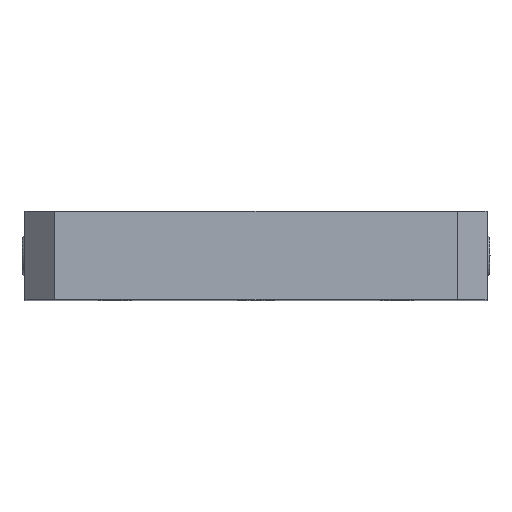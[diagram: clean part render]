
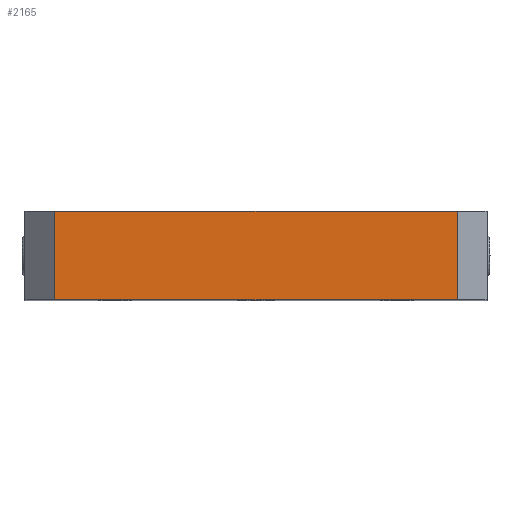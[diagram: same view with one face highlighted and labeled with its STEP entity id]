
A CAD part, top view. The second image highlights one B-rep face of the part: STEP entity #2165.
In plain terms, the highlighted planar face has unit normal (0, 0, 1) as drawn and (-1, 0, 0) by its records, which use the part's own axes.
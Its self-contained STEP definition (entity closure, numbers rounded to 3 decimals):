
#570 = ORIENTED_EDGE ( 'NONE', *, *, #3786, .T. ) ;
#704 = AXIS2_PLACEMENT_3D ( 'NONE', #2195, #2285, #7092 ) ;
#1652 = LINE ( 'NONE', #2837, #7239 ) ;
#1834 = CARTESIAN_POINT ( 'NONE',  ( -95., 0., -68. ) ) ;
#1933 = DIRECTION ( 'NONE',  ( 0., -1., 0. ) ) ;
#1963 = VERTEX_POINT ( 'NONE', #3541 ) ;
#2165 = ADVANCED_FACE ( 'NONE', ( #4345 ), #2842, .F. ) ;
#2195 = CARTESIAN_POINT ( 'NONE',  ( -95., 30., 78. ) ) ;
#2285 = DIRECTION ( 'NONE',  ( 1., 0., 0. ) ) ;
#2613 = CARTESIAN_POINT ( 'NONE',  ( -95., 30., -68. ) ) ;
#2837 = CARTESIAN_POINT ( 'NONE',  ( -95., 30., 68. ) ) ;
#2842 = PLANE ( 'NONE',  #704 ) ;
#2844 = EDGE_CURVE ( 'NONE', #6670, #1963, #1652, .T. ) ;
#2898 = ORIENTED_EDGE ( 'NONE', *, *, #5987, .F. ) ;
#3541 = CARTESIAN_POINT ( 'NONE',  ( -95., 30., 68. ) ) ;
#3560 = DIRECTION ( 'NONE',  ( 0., 1., 0. ) ) ;
#3786 = EDGE_CURVE ( 'NONE', #6898, #6670, #5842, .T. ) ;
#3817 = CARTESIAN_POINT ( 'NONE',  ( -95., 0., 78. ) ) ;
#3820 = VECTOR ( 'NONE', #6611, 1000. ) ;
#4345 = FACE_OUTER_BOUND ( 'NONE', #8142, .T. ) ;
#4455 = ORIENTED_EDGE ( 'NONE', *, *, #2844, .T. ) ;
#4819 = ORIENTED_EDGE ( 'NONE', *, *, #5014, .T. ) ;
#4979 = VECTOR ( 'NONE', #5844, 1000. ) ;
#5014 = EDGE_CURVE ( 'NONE', #6042, #6898, #7415, .T. ) ;
#5253 = VECTOR ( 'NONE', #1933, 1000. ) ;
#5842 = LINE ( 'NONE', #3817, #3820 ) ;
#5844 = DIRECTION ( 'NONE',  ( 0., 0., 1. ) ) ;
#5987 = EDGE_CURVE ( 'NONE', #6042, #1963, #7380, .T. ) ;
#6042 = VERTEX_POINT ( 'NONE', #8600 ) ;
#6611 = DIRECTION ( 'NONE',  ( 0., 0., 1. ) ) ;
#6670 = VERTEX_POINT ( 'NONE', #8345 ) ;
#6898 = VERTEX_POINT ( 'NONE', #1834 ) ;
#7092 = DIRECTION ( 'NONE',  ( 0., 0., -1. ) ) ;
#7239 = VECTOR ( 'NONE', #3560, 1000. ) ;
#7380 = LINE ( 'NONE', #8682, #4979 ) ;
#7415 = LINE ( 'NONE', #2613, #5253 ) ;
#8142 = EDGE_LOOP ( 'NONE', ( #570, #4455, #2898, #4819 ) ) ;
#8345 = CARTESIAN_POINT ( 'NONE',  ( -95., 0., 68. ) ) ;
#8600 = CARTESIAN_POINT ( 'NONE',  ( -95., 30., -68. ) ) ;
#8682 = CARTESIAN_POINT ( 'NONE',  ( -95., 30., 78. ) ) ;
